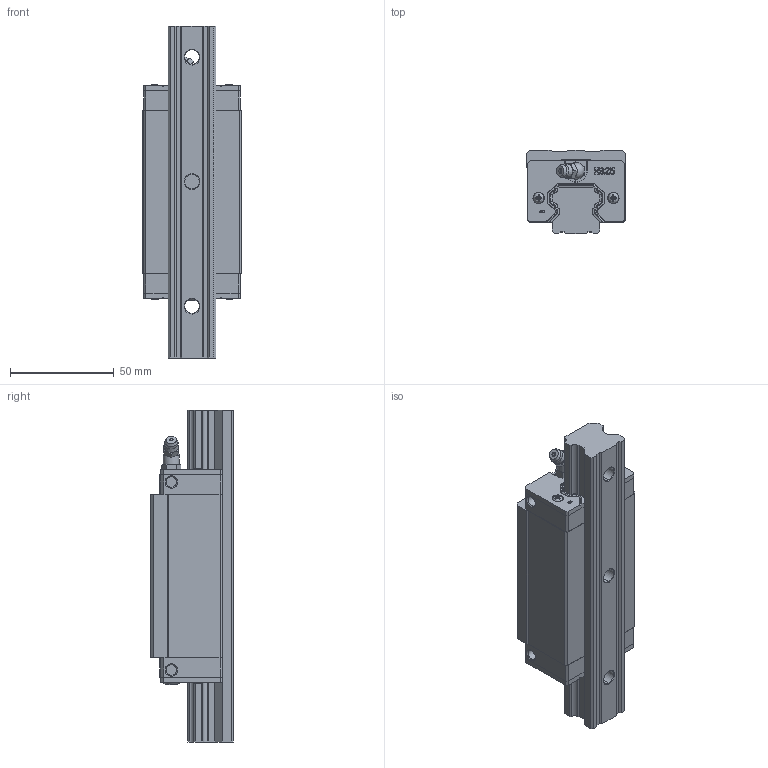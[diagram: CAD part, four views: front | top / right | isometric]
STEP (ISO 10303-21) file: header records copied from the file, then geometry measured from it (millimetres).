
FILE_DESCRIPTION(/* description */ (''),/* implementation_level */ '2;1');
FILE_NAME(/* name */ 'HBH25HA.stp',/* time_stamp */ '2024-09-29T20:58:12+08:00',/* author */ (''),/* organization */ (''),/* preprocessor_version */ 'ST-DEVELOPER v16.7',/* originating_system */ 'SIEMENS PLM Software NX 12.0',/* authorisation */ '');
FILE_SCHEMA (('AUTOMOTIVE_DESIGN { 1 0 10303 214 3 1 1 1 }'));
Products named in the file (3): HBH25HA; HBR25; HBH25HA_stp
Assembly tree (2 placements, depth 2):
  HBH25HA_stp
    HBR25
    HBH25HA
Bounding box: 48 x 40 x 160 mm (x, y, z)
Volume: 193705.2 mm3; surface area: 46577.6 mm2
Topology: 2 solids, 10 shells, 1017 faces, 2678 edges, 1734 vertices
Faces by surface type: plane 595, cylinder 175, extrusion 109, cone 72, bspline 41, torus 22, sphere 3
Full cylindrical faces by diameter (mm): 3 x1, 3.7 x1, 5 x4, 5.3 x32, 6.5 x2, 7.8 x1, 8.002 x2, 8.3 x1
Entity records: 67280 total; most frequent: CARTESIAN_POINT 37887, ORIENTED_EDGE 5002, DIRECTION 4087, EDGE_CURVE 2501, VERTEX_POINT 1644, VECTOR 1643, LINE 1534, AXIS2_PLACEMENT_3D 1222
